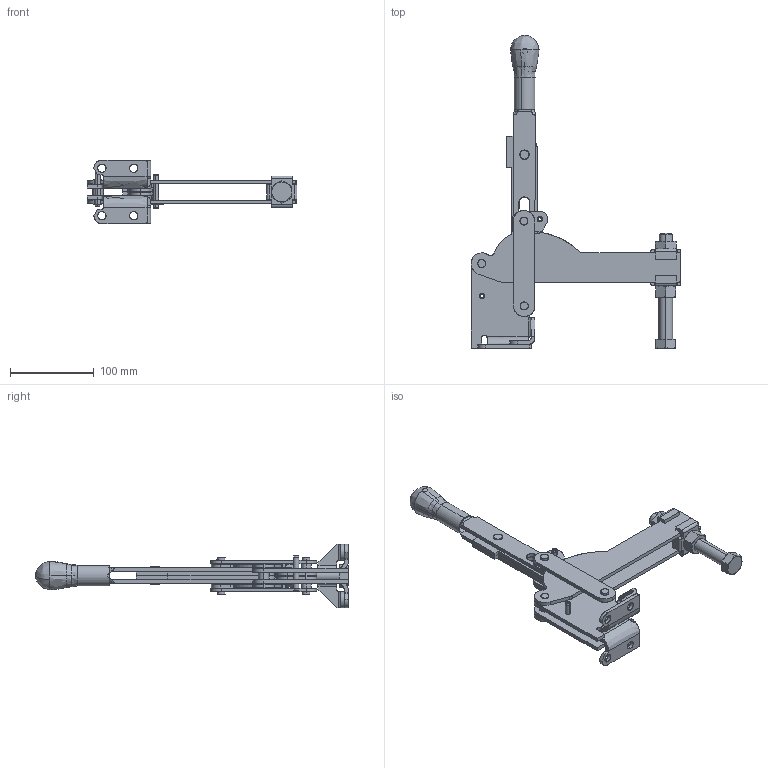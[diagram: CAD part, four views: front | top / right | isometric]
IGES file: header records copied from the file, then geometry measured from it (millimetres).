
Start section: ---------- IGES file using analytic representation for surfaces
Global section: file name: -------------------------------------.IGS; native system: ---------- 2005 ------------- -----------; preprocessor: ---------- ---- by ---------- -----------; author: -------; date: 060228.165700; units: inch
Bounding box: 250.83 x 374.34 x 75.84 mm (x, y, z)
Surface area: 219745.4 mm2 (no closed solid volume)
Topology: 0 solids, 0 shells, 663 faces, 11086 edges, 11078 vertices
Faces by surface type: revolution 365, bspline 298
